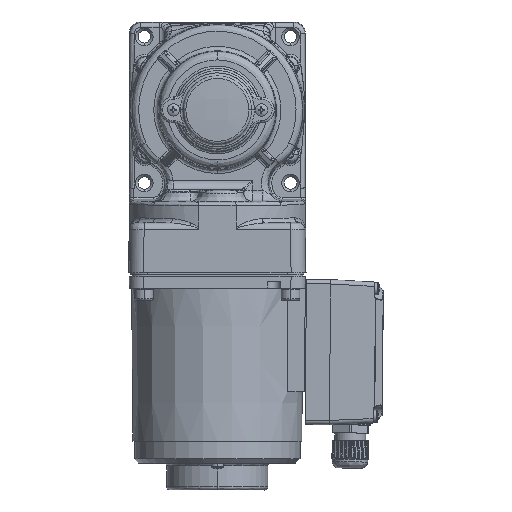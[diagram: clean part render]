
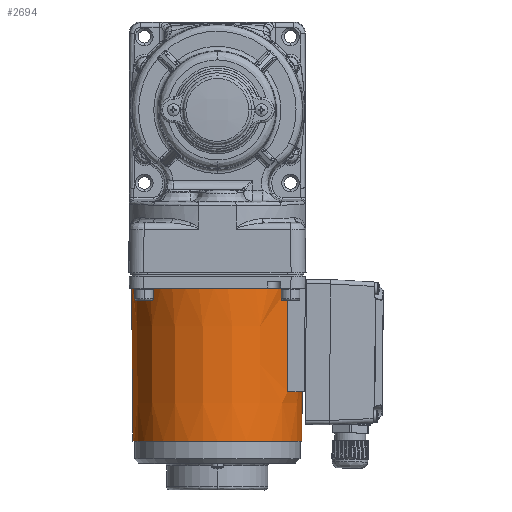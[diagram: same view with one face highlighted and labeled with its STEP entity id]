
A CAD part, left-side view. The second image highlights one B-rep face of the part: STEP entity #2694.
In plain terms, the highlighted conical face has half-angle 0.47 degrees and reference radius 38.947 mm.
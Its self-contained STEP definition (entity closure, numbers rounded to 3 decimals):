
#524 = DIRECTION ( 'NONE',  ( 0., 0., -1. ) ) ;
#2011 = EDGE_CURVE ( 'NONE', #37727, #61177, #85577, .T. ) ;
#2694 = ADVANCED_FACE ( 'NONE', ( #94961 ), #95782, .T. ) ;
#12337 = VECTOR ( 'NONE', #16309, 1000. ) ;
#13305 = CARTESIAN_POINT ( 'NONE',  ( 21.59, 47., 31.951 ) ) ;
#15661 = VERTEX_POINT ( 'NONE', #85976 ) ;
#16309 = DIRECTION ( 'NONE',  ( 0., -1., 0.008 ) ) ;
#18183 = CARTESIAN_POINT ( 'NONE',  ( 0., 47., 38.561 ) ) ;
#18291 = VERTEX_POINT ( 'NONE', #86915 ) ;
#18389 = AXIS2_PLACEMENT_3D ( 'NONE', #36098, #88640, #43908 ) ;
#20156 = AXIS2_PLACEMENT_3D ( 'NONE', #52090, #52293, #52967 ) ;
#23377 = ORIENTED_EDGE ( 'NONE', *, *, #78700, .T. ) ;
#24095 = CARTESIAN_POINT ( 'NONE',  ( 0., 0., 38.947 ) ) ;
#25069 = ORIENTED_EDGE ( 'NONE', *, *, #61899, .T. ) ;
#26451 = ORIENTED_EDGE ( 'NONE', *, *, #57893, .T. ) ;
#26706 = CARTESIAN_POINT ( 'NONE',  ( 0., 69.5, -38.377 ) ) ;
#27288 = AXIS2_PLACEMENT_3D ( 'NONE', #86675, #86655, #86565 ) ;
#32165 = CARTESIAN_POINT ( 'NONE',  ( 21.59, 47., 31.951 ) ) ;
#35386 = AXIS2_PLACEMENT_3D ( 'NONE', #91059, #46521, #524 ) ;
#36098 = CARTESIAN_POINT ( 'NONE',  ( 0., 0., 0. ) ) ;
#36982 = VERTEX_POINT ( 'NONE', #26706 ) ;
#37727 = VERTEX_POINT ( 'NONE', #18183 ) ;
#39050 = ORIENTED_EDGE ( 'NONE', *, *, #79241, .F. ) ;
#39925 = CARTESIAN_POINT ( 'NONE',  ( 21.863, 15.712, 32.076 ) ) ;
#43908 = DIRECTION ( 'NONE',  ( 0., 0., -1. ) ) ;
#45550 = VERTEX_POINT ( 'NONE', #53794 ) ;
#46521 = DIRECTION ( 'NONE',  ( 0., -1., 0. ) ) ;
#51113 = ORIENTED_EDGE ( 'NONE', *, *, #52697, .T. ) ;
#52090 = CARTESIAN_POINT ( 'NONE',  ( 0., 0., 0. ) ) ;
#52293 = DIRECTION ( 'NONE',  ( 0., -1., 0. ) ) ;
#52697 = EDGE_CURVE ( 'NONE', #15661, #45550, #74707, .T. ) ;
#52967 = DIRECTION ( 'NONE',  ( 0., 0., -1. ) ) ;
#53794 = CARTESIAN_POINT ( 'NONE',  ( 0., 0., -38.947 ) ) ;
#56095 = VECTOR ( 'NONE', #64959, 1000. ) ;
#56694 = CIRCLE ( 'NONE', #35386, 38.377 ) ;
#57496 = CARTESIAN_POINT ( 'NONE',  ( 0., 0., -38.947 ) ) ;
#57893 = EDGE_CURVE ( 'NONE', #18291, #37727, #59176, .T. ) ;
#58338 = EDGE_LOOP ( 'NONE', ( #25069, #26451, #61694, #23377, #51113, #39050 ) ) ;
#58753 = LINE ( 'NONE', #57496, #56095 ) ;
#59176 = LINE ( 'NONE', #24095, #12337 ) ;
#61177 = VERTEX_POINT ( 'NONE', #13305 ) ;
#61620 =( BOUNDED_CURVE ( )  B_SPLINE_CURVE ( 3, ( #32165, #77694, #39925, #92118 ),
 .UNSPECIFIED., .F., .T. ) 
 B_SPLINE_CURVE_WITH_KNOTS ( ( 4, 4 ),
 ( 3.781, 3.785 ),
 .UNSPECIFIED. ) 
 CURVE ( )  GEOMETRIC_REPRESENTATION_ITEM ( )  RATIONAL_B_SPLINE_CURVE ( ( 1., 1., 1., 1. ) ) 
 REPRESENTATION_ITEM ( '' )  );
#61694 = ORIENTED_EDGE ( 'NONE', *, *, #2011, .T. ) ;
#61899 = EDGE_CURVE ( 'NONE', #36982, #18291, #56694, .T. ) ;
#64959 = DIRECTION ( 'NONE',  ( 0., -1., -0.008 ) ) ;
#74707 = CIRCLE ( 'NONE', #18389, 38.947 ) ;
#77694 = CARTESIAN_POINT ( 'NONE',  ( 21.726, 31.379, 32.013 ) ) ;
#78700 = EDGE_CURVE ( 'NONE', #61177, #15661, #61620, .T. ) ;
#79241 = EDGE_CURVE ( 'NONE', #36982, #45550, #58753, .T. ) ;
#85577 = CIRCLE ( 'NONE', #27288, 38.561 ) ;
#85976 = CARTESIAN_POINT ( 'NONE',  ( 22., 0., 32.138 ) ) ;
#86565 = DIRECTION ( 'NONE',  ( 0., 0., -1. ) ) ;
#86655 = DIRECTION ( 'NONE',  ( 0., 1., 0. ) ) ;
#86675 = CARTESIAN_POINT ( 'NONE',  ( 0., 47., 0. ) ) ;
#86915 = CARTESIAN_POINT ( 'NONE',  ( 0., 69.5, 38.377 ) ) ;
#88640 = DIRECTION ( 'NONE',  ( 0., 1., 0. ) ) ;
#91059 = CARTESIAN_POINT ( 'NONE',  ( 0., 69.5, 0. ) ) ;
#92118 = CARTESIAN_POINT ( 'NONE',  ( 22., 0., 32.138 ) ) ;
#94961 = FACE_OUTER_BOUND ( 'NONE', #58338, .T. ) ;
#95782 = CONICAL_SURFACE ( 'NONE', #20156, 38.947, 0.008 ) ;
